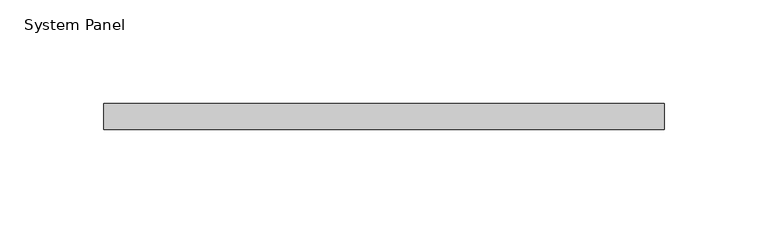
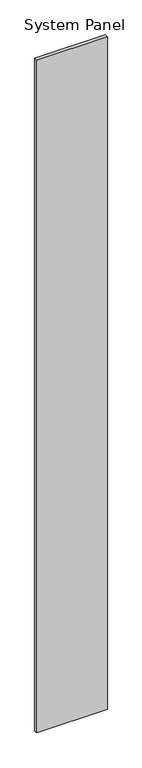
"""IFC4 building model written with IfcOpenShell, lengths in millimetres: plate geometry, System Panel : CR-BARANDA."""

from ifc_helpers import new_model, si_unit, origin, origin_with_axes, place, context, project, spatial, polyline, outline, extrude, source, transform, mapped, element, save


def system_panel_82a90451(model_context):
    return source(origin(), model_context, "Body", "SweptSolid", [
        extrude(outline(polyline([(135.2352806, -6.25), (-135.2352806, -6.25), (-135.2352806, 6.25), (135.2352806, 6.25), (135.2352806, -6.25)])), origin_with_axes(), (0.0, 0.0, 1.0), 2720.0),
    ])


if __name__ == "__main__":
    model = new_model("IFC4")
    model_context = context("Model", 3, world=origin())
    ifc_project = project(units=[si_unit("LENGTHUNIT", "METRE", prefix="MILLI")], contexts=[model_context])
    site = spatial("IfcSite", under=ifc_project)
    building = spatial("IfcBuilding", under=site)
    placement = place(None, origin())
    system_panel_shape = system_panel_82a90451(model_context)
    element("IfcPlate", 1, ObjectType="System Panel : CR-BARANDA", at=placement, inside=building, context=model_context, shape_type="MappedRepresentation", body=[
        mapped(system_panel_shape, transform((0.0, 0.0, 0.0), x_axis=(1.0, 0.0, 0.0), y_axis=(0.0, 1.0, 0.0), z_axis=(0.0, 0.0, 1.0))),
    ])
    save(model, "model.ifc")
